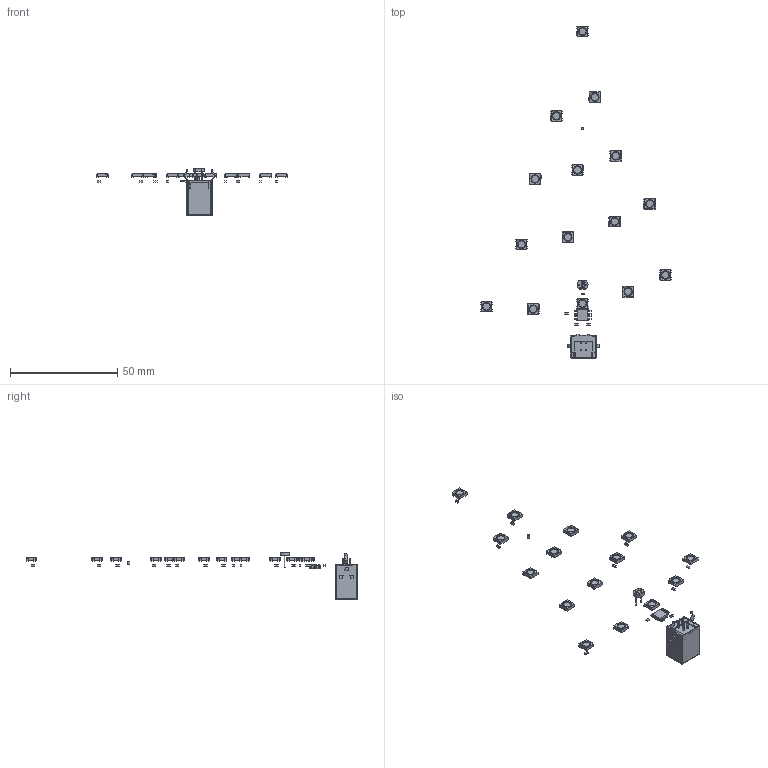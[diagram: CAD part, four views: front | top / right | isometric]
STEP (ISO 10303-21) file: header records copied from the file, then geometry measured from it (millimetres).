
FILE_DESCRIPTION(('KiCad electronic assembly'),'2;1');
FILE_NAME('Drvce.step','2020-10-27T18:41:32',('An Author'),('A Company') ,'Open CASCADE STEP processor 6.9','KiCad to STEP converter','Unknown' );
FILE_SCHEMA(('AUTOMOTIVE_DESIGN { 1 0 10303 214 1 1 1 1 }'));
Length unit declared in the file: millimetre
Products named in the file (14): Open CASCADE STEP translator 6.9 1; m701-330442_asm; COMPOUND; R_LDR_5.1x4.3mm_P3.4mm_Vertical; R_0603_1608Metric; SOLID; LED_WS2812B_PLCC4_5.0x5.0mm_P3.2mm; C_0603_1608Metric; SOIJ-8_5.3x5.3mm_P1.27mm
Assembly tree (44 placements, depth 3):
  Open CASCADE STEP translator 6.9 1
    m701-330442_asm
      COMPOUND
    R_LDR_5.1x4.3mm_P3.4mm_Vertical
      COMPOUND
    R_0603_1608Metric  x3
      SOLID
    LED_WS2812B_PLCC4_5.0x5.0mm_P3.2mm  x15
      SOLID
    C_0603_1608Metric  x16
      SOLID
    SOIJ-8_5.3x5.3mm_P1.27mm
      SOLID
    COMPOUND
Bounding box: 88.83 x 154.76 x 21.95 mm (x, y, z)
Volume: 2130.3 mm3; surface area: 4898.7 mm2
Topology: 44 solids, 44 shells, 2407 faces, 6643 edges, 4318 vertices
Faces by surface type: plane 1550, cylinder 758, bspline 70, cone 17, sphere 12
Full cylindrical faces by diameter (mm): 0.5 x4, 0.6 x1, 1.152 x1, 3.333 x15
Entity records: 73077 total; most frequent: CARTESIAN_POINT 18222, DIRECTION 9556, LINE 6453, VECTOR 6453, ORIENTED_EDGE 5226, PCURVE 5226, DEFINITIONAL_REPRESENTATION 5226, EDGE_CURVE 2613
